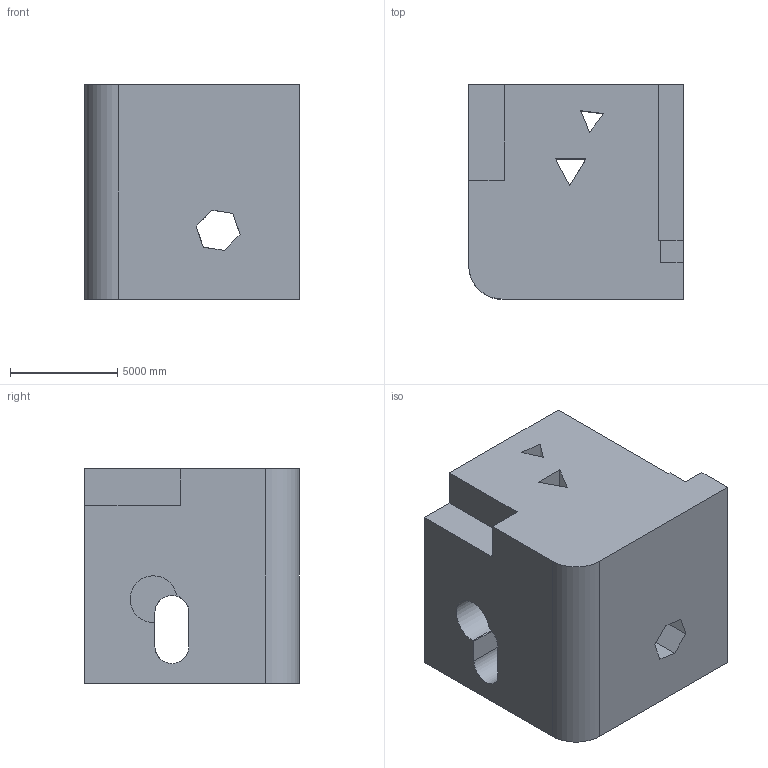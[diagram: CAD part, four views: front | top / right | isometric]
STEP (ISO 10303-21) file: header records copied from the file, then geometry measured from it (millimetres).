
FILE_DESCRIPTION (( 'STEP AP203' ), '1' );
FILE_NAME ('900.STEP', '2022-07-29T14:07:34', ( 'user' ), ( '' ), 'SwSTEP 2.0', 'SolidWorks 2021', '' );
FILE_SCHEMA (( 'CONFIG_CONTROL_DESIGN' ));
Length unit declared in the file: centimetre
Products named in the file (1): 900
Bounding box: 10000 x 10000 x 10000 mm (x, y, z)
Volume: 862627820097.3 mm3; surface area: 787701829.9 mm2
Topology: 1 solids, 1 shells, 54 faces, 174 edges, 116 vertices
Faces by surface type: plane 43, cylinder 11
Entity records: 2096 total; most frequent: CARTESIAN_POINT 485, ORIENTED_EDGE 348, DIRECTION 287, EDGE_CURVE 174, VECTOR 139, LINE 139, VERTEX_POINT 116, AXIS2_PLACEMENT_3D 74
